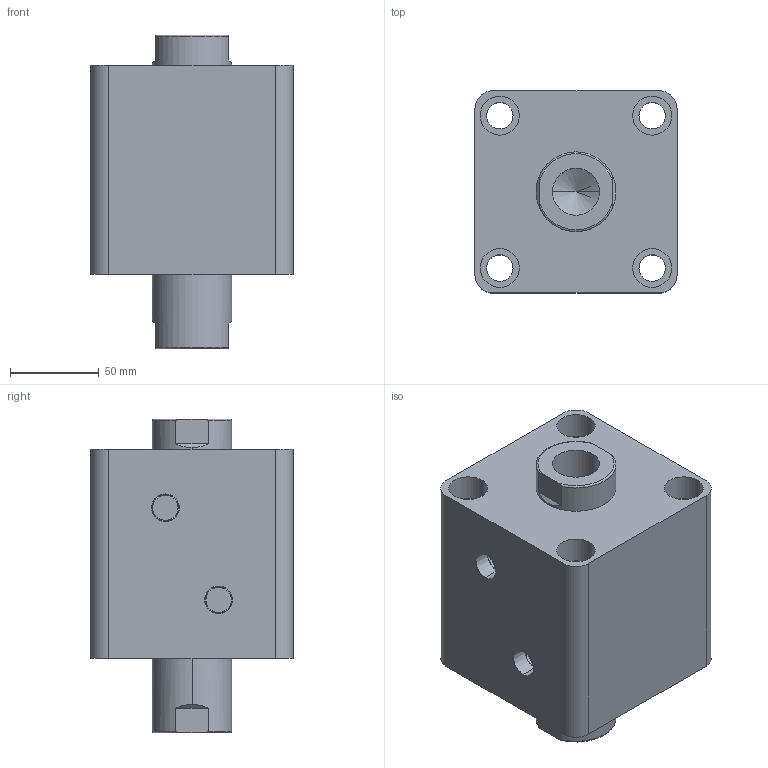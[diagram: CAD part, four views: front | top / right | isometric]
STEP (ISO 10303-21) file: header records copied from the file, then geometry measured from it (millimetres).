
FILE_DESCRIPTION (( 'STEP AP203' ), '1' );
FILE_NAME ('HTB-SW80-25N.STEP', '2019-10-07T10:20:46', ( '微软用户' ), ( '微软中国' ), 'SwSTEP 2.0', 'SolidWorks 2012', '' );
FILE_SCHEMA (( 'CONFIG_CONTROL_DESIGN' ));
Length unit declared in the file: millimetre
Products named in the file (3): HTB-SW80-25N; HTB-SW80-25N活塞杆; HTB-SW80-25掛极
Assembly tree (2 placements, depth 2):
  HTB-SW80-25N
    HTB-SW80-25掛极
    HTB-SW80-25N活塞杆
Bounding box: 114 x 114 x 177 mm (x, y, z)
Volume: 1387445.8 mm3; surface area: 171359.4 mm2
Topology: 2 solids, 2 shells, 100 faces, 228 edges, 146 vertices
Faces by surface type: cylinder 48, plane 32, torus 12, cone 8
Entity records: 3237 total; most frequent: CARTESIAN_POINT 595, DIRECTION 542, ORIENTED_EDGE 448, AXIS2_PLACEMENT_3D 229, EDGE_CURVE 224, VERTEX_POINT 146, EDGE_LOOP 128, CIRCLE 124
